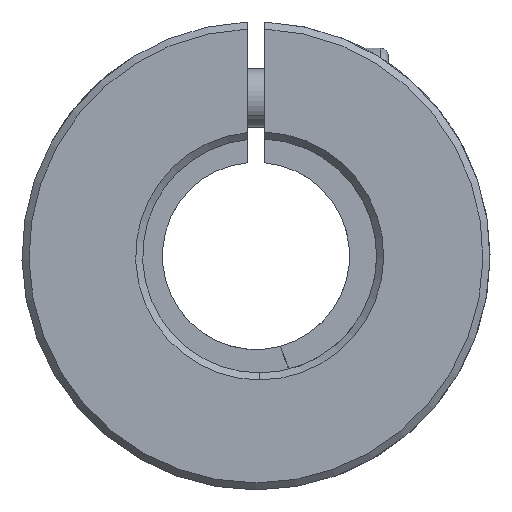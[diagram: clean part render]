
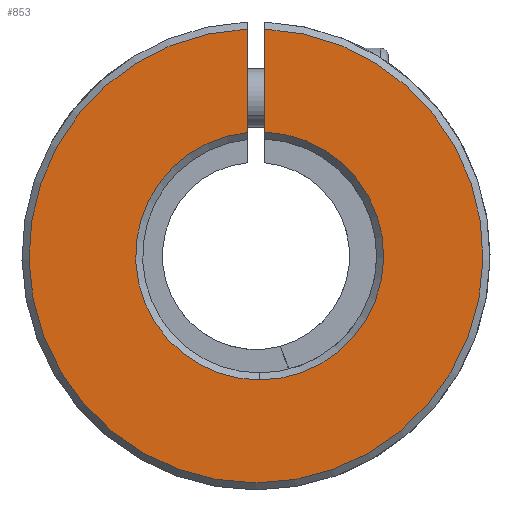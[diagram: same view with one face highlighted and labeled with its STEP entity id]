
A CAD part, front view. The second image highlights one B-rep face of the part: STEP entity #853.
In plain terms, the highlighted planar face has unit normal (0, -1, 0).
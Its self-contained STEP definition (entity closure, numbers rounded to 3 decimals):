
#199 = LINE ( 'NONE', #2442, #2732 ) ;
#332 = ORIENTED_EDGE ( 'NONE', *, *, #1802, .T. ) ;
#469 = CIRCLE ( 'NONE', #1446, 10.6 ) ;
#675 = AXIS2_PLACEMENT_3D ( 'NONE', #753, #2094, #3835 ) ;
#753 = CARTESIAN_POINT ( 'NONE',  ( 0., -30., 0. ) ) ;
#853 = ADVANCED_FACE ( 'NONE', ( #5294 ), #2674, .F. ) ;
#937 = ORIENTED_EDGE ( 'NONE', *, *, #5237, .T. ) ;
#978 = VERTEX_POINT ( 'NONE', #3629 ) ;
#1155 = ORIENTED_EDGE ( 'NONE', *, *, #4492, .T. ) ;
#1162 = CIRCLE ( 'NONE', #675, 19.4 ) ;
#1237 = CIRCLE ( 'NONE', #1984, 10.6 ) ;
#1251 = CARTESIAN_POINT ( 'NONE',  ( 0.314, -30., -10.6 ) ) ;
#1403 = CARTESIAN_POINT ( 'NONE',  ( 0.314, -30., 0. ) ) ;
#1446 = AXIS2_PLACEMENT_3D ( 'NONE', #5263, #4826, #4936 ) ;
#1563 = DIRECTION ( 'NONE',  ( 0., 0., 1. ) ) ;
#1756 = DIRECTION ( 'NONE',  ( 0., 1., 0. ) ) ;
#1802 = EDGE_CURVE ( 'NONE', #5723, #2759, #199, .T. ) ;
#1935 = AXIS2_PLACEMENT_3D ( 'NONE', #4380, #1756, #2644 ) ;
#1984 = AXIS2_PLACEMENT_3D ( 'NONE', #1403, #4446, #2197 ) ;
#2043 = ORIENTED_EDGE ( 'NONE', *, *, #2367, .T. ) ;
#2094 = DIRECTION ( 'NONE',  ( 0., -1., 0. ) ) ;
#2197 = DIRECTION ( 'NONE',  ( 0., 0., 1. ) ) ;
#2273 = VERTEX_POINT ( 'NONE', #4763 ) ;
#2297 = ORIENTED_EDGE ( 'NONE', *, *, #3200, .T. ) ;
#2367 = EDGE_CURVE ( 'NONE', #3895, #978, #469, .T. ) ;
#2395 = LINE ( 'NONE', #4210, #4315 ) ;
#2442 = CARTESIAN_POINT ( 'NONE',  ( 0.75, -30., -4. ) ) ;
#2644 = DIRECTION ( 'NONE',  ( 0., 0., 1. ) ) ;
#2674 = PLANE ( 'NONE',  #1935 ) ;
#2732 = VECTOR ( 'NONE', #3729, 1000. ) ;
#2759 = VERTEX_POINT ( 'NONE', #4737 ) ;
#3200 = EDGE_CURVE ( 'NONE', #2273, #5723, #1162, .T. ) ;
#3629 = CARTESIAN_POINT ( 'NONE',  ( -0.75, -30., 10.546 ) ) ;
#3729 = DIRECTION ( 'NONE',  ( 0., 0., -1. ) ) ;
#3835 = DIRECTION ( 'NONE',  ( 0., 0., 1. ) ) ;
#3895 = VERTEX_POINT ( 'NONE', #1251 ) ;
#4210 = CARTESIAN_POINT ( 'NONE',  ( -0.75, -30., -4. ) ) ;
#4213 = CARTESIAN_POINT ( 'NONE',  ( 0.75, -30., 19.385 ) ) ;
#4315 = VECTOR ( 'NONE', #1563, 1000. ) ;
#4380 = CARTESIAN_POINT ( 'NONE',  ( 0., -30., 0. ) ) ;
#4446 = DIRECTION ( 'NONE',  ( 0., 1., 0. ) ) ;
#4492 = EDGE_CURVE ( 'NONE', #978, #2273, #2395, .T. ) ;
#4737 = CARTESIAN_POINT ( 'NONE',  ( 0.75, -30., 10.591 ) ) ;
#4763 = CARTESIAN_POINT ( 'NONE',  ( -0.75, -30., 19.385 ) ) ;
#4826 = DIRECTION ( 'NONE',  ( 0., 1., 0. ) ) ;
#4936 = DIRECTION ( 'NONE',  ( 0., 0., 1. ) ) ;
#5237 = EDGE_CURVE ( 'NONE', #2759, #3895, #1237, .T. ) ;
#5263 = CARTESIAN_POINT ( 'NONE',  ( 0.314, -30., 0. ) ) ;
#5294 = FACE_OUTER_BOUND ( 'NONE', #5333, .T. ) ;
#5333 = EDGE_LOOP ( 'NONE', ( #332, #937, #2043, #1155, #2297 ) ) ;
#5723 = VERTEX_POINT ( 'NONE', #4213 ) ;
